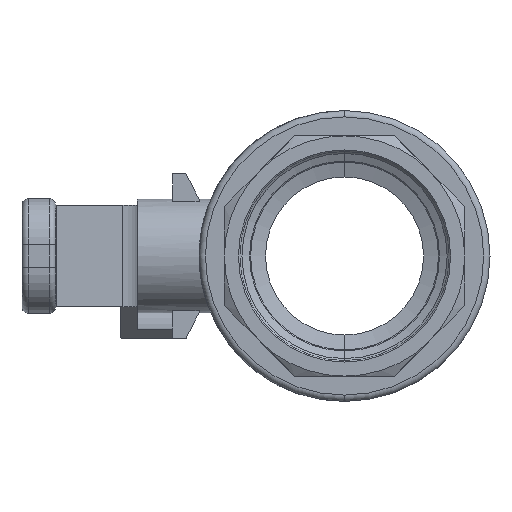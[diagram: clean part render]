
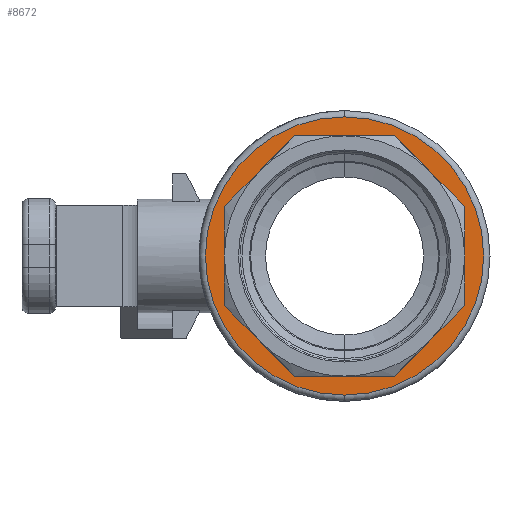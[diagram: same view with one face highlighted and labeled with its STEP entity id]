
A CAD part, left-side view. The second image highlights one B-rep face of the part: STEP entity #8672.
In plain terms, the highlighted planar face has unit normal (-1, 0, 0).
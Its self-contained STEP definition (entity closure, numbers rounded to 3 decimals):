
#219 = EDGE_LOOP ( 'NONE', ( #9027, #9028 ) ) ;
#221 = EDGE_LOOP ( 'NONE', ( #9029, #9030, #9031, #9032, #5512, #5513, #5514, #5515 ) ) ;
#1037 = CIRCLE ( 'NONE', #1040, 22. ) ;
#1040 = AXIS2_PLACEMENT_3D ( 'NONE', #8238, #8239, #8240 ) ;
#1052 = VECTOR ( 'NONE', #8299, 1000. ) ;
#1060 = VECTOR ( 'NONE', #8317, 1000. ) ;
#1063 = VECTOR ( 'NONE', #8337, 1000. ) ;
#1064 = VECTOR ( 'NONE', #8358, 1000. ) ;
#1067 = VECTOR ( 'NONE', #8374, 1000. ) ;
#1156 = CIRCLE ( 'NONE', #1159, 22. ) ;
#1159 = AXIS2_PLACEMENT_3D ( 'NONE', #2088, #2089, #2090 ) ;
#1446 = VECTOR ( 'NONE', #2812, 1000. ) ;
#1447 = VECTOR ( 'NONE', #2833, 1000. ) ;
#1450 = VECTOR ( 'NONE', #2853, 1000. ) ;
#1555 = AXIS2_PLACEMENT_3D ( 'NONE', #2537, #2544, #2545 ) ;
#2088 = CARTESIAN_POINT ( 'NONE',  ( -21., 0., 0. ) ) ;
#2089 = DIRECTION ( 'NONE',  ( -1., 0., 0. ) ) ;
#2090 = DIRECTION ( 'NONE',  ( 0., 0., 1. ) ) ;
#2537 = CARTESIAN_POINT ( 'NONE',  ( -21., 0., 0. ) ) ;
#2538 = FACE_OUTER_BOUND ( 'NONE', #219, .T. ) ;
#2541 = FACE_BOUND ( 'NONE', #221, .T. ) ;
#2542 = PLANE ( 'NONE',  #1555 ) ;
#2544 = DIRECTION ( 'NONE',  ( 1., 0., 0. ) ) ;
#2545 = DIRECTION ( 'NONE',  ( 0., 0., -1. ) ) ;
#2810 = LINE ( 'NONE', #2811, #1446 ) ;
#2811 = CARTESIAN_POINT ( 'NONE',  ( -21., -19., -7.87 ) ) ;
#2812 = DIRECTION ( 'NONE',  ( 0., 0.707, -0.707 ) ) ;
#2831 = LINE ( 'NONE', #2832, #1447 ) ;
#2832 = CARTESIAN_POINT ( 'NONE',  ( -21., -19., 7.87 ) ) ;
#2833 = DIRECTION ( 'NONE',  ( 0., 0., -1. ) ) ;
#2851 = LINE ( 'NONE', #2852, #1450 ) ;
#2852 = CARTESIAN_POINT ( 'NONE',  ( -21., -7.87, 19. ) ) ;
#2853 = DIRECTION ( 'NONE',  ( 0., -0.707, -0.707 ) ) ;
#3758 = CARTESIAN_POINT ( 'NONE',  ( -21., 0., -22. ) ) ;
#3782 = CARTESIAN_POINT ( 'NONE',  ( -21., 0., 22. ) ) ;
#3851 = CARTESIAN_POINT ( 'NONE',  ( -21., 7.87, -19. ) ) ;
#3855 = CARTESIAN_POINT ( 'NONE',  ( -21., -7.87, 19. ) ) ;
#3871 = CARTESIAN_POINT ( 'NONE',  ( -21., 19., -7.87 ) ) ;
#3872 = CARTESIAN_POINT ( 'NONE',  ( -21., 19., 7.87 ) ) ;
#3873 = CARTESIAN_POINT ( 'NONE',  ( -21., 7.87, 19. ) ) ;
#3874 = CARTESIAN_POINT ( 'NONE',  ( -21., -7.87, -19. ) ) ;
#3895 = CARTESIAN_POINT ( 'NONE',  ( -21., -19., 7.87 ) ) ;
#3898 = CARTESIAN_POINT ( 'NONE',  ( -21., -19., -7.87 ) ) ;
#5512 = ORIENTED_EDGE ( 'NONE', *, *, #7900, .T. ) ;
#5513 = ORIENTED_EDGE ( 'NONE', *, *, #8743, .T. ) ;
#5514 = ORIENTED_EDGE ( 'NONE', *, *, #8739, .T. ) ;
#5515 = ORIENTED_EDGE ( 'NONE', *, *, #8735, .T. ) ;
#6452 = VERTEX_POINT ( 'NONE', #3758 ) ;
#6476 = VERTEX_POINT ( 'NONE', #3782 ) ;
#6556 = VERTEX_POINT ( 'NONE', #3851 ) ;
#6560 = VERTEX_POINT ( 'NONE', #3855 ) ;
#6576 = VERTEX_POINT ( 'NONE', #3871 ) ;
#6577 = VERTEX_POINT ( 'NONE', #3872 ) ;
#6578 = VERTEX_POINT ( 'NONE', #3873 ) ;
#6579 = VERTEX_POINT ( 'NONE', #3874 ) ;
#6600 = VERTEX_POINT ( 'NONE', #3895 ) ;
#6603 = VERTEX_POINT ( 'NONE', #3898 ) ;
#7624 = EDGE_CURVE ( 'NONE', #6476, #6452, #1156, .T. ) ;
#7882 = EDGE_CURVE ( 'NONE', #6452, #6476, #1037, .T. ) ;
#7900 = EDGE_CURVE ( 'NONE', #6578, #6560, #8291, .T. ) ;
#7904 = EDGE_CURVE ( 'NONE', #6577, #6578, #8315, .T. ) ;
#7908 = EDGE_CURVE ( 'NONE', #6576, #6577, #8335, .T. ) ;
#7912 = EDGE_CURVE ( 'NONE', #6556, #6576, #8356, .T. ) ;
#7915 = EDGE_CURVE ( 'NONE', #6579, #6556, #8372, .T. ) ;
#8238 = CARTESIAN_POINT ( 'NONE',  ( -21., 0., 0. ) ) ;
#8239 = DIRECTION ( 'NONE',  ( -1., 0., 0. ) ) ;
#8240 = DIRECTION ( 'NONE',  ( 0., 0., 1. ) ) ;
#8291 = LINE ( 'NONE', #8297, #1052 ) ;
#8297 = CARTESIAN_POINT ( 'NONE',  ( -21., 7.87, 19. ) ) ;
#8299 = DIRECTION ( 'NONE',  ( 0., -1., 0. ) ) ;
#8315 = LINE ( 'NONE', #8316, #1060 ) ;
#8316 = CARTESIAN_POINT ( 'NONE',  ( -21., 19., 7.87 ) ) ;
#8317 = DIRECTION ( 'NONE',  ( 0., -0.707, 0.707 ) ) ;
#8335 = LINE ( 'NONE', #8336, #1063 ) ;
#8336 = CARTESIAN_POINT ( 'NONE',  ( -21., 19., -7.87 ) ) ;
#8337 = DIRECTION ( 'NONE',  ( 0., 0., 1. ) ) ;
#8356 = LINE ( 'NONE', #8357, #1064 ) ;
#8357 = CARTESIAN_POINT ( 'NONE',  ( -21., 7.87, -19. ) ) ;
#8358 = DIRECTION ( 'NONE',  ( 0., 0.707, 0.707 ) ) ;
#8372 = LINE ( 'NONE', #8373, #1067 ) ;
#8373 = CARTESIAN_POINT ( 'NONE',  ( -21., -7.87, -19. ) ) ;
#8374 = DIRECTION ( 'NONE',  ( 0., 1., 0. ) ) ;
#8672 = ADVANCED_FACE ( 'NONE', ( #2538, #2541 ), #2542, .F. ) ;
#8735 = EDGE_CURVE ( 'NONE', #6603, #6579, #2810, .T. ) ;
#8739 = EDGE_CURVE ( 'NONE', #6600, #6603, #2831, .T. ) ;
#8743 = EDGE_CURVE ( 'NONE', #6560, #6600, #2851, .T. ) ;
#9027 = ORIENTED_EDGE ( 'NONE', *, *, #7624, .T. ) ;
#9028 = ORIENTED_EDGE ( 'NONE', *, *, #7882, .T. ) ;
#9029 = ORIENTED_EDGE ( 'NONE', *, *, #7915, .T. ) ;
#9030 = ORIENTED_EDGE ( 'NONE', *, *, #7912, .T. ) ;
#9031 = ORIENTED_EDGE ( 'NONE', *, *, #7908, .T. ) ;
#9032 = ORIENTED_EDGE ( 'NONE', *, *, #7904, .T. ) ;
